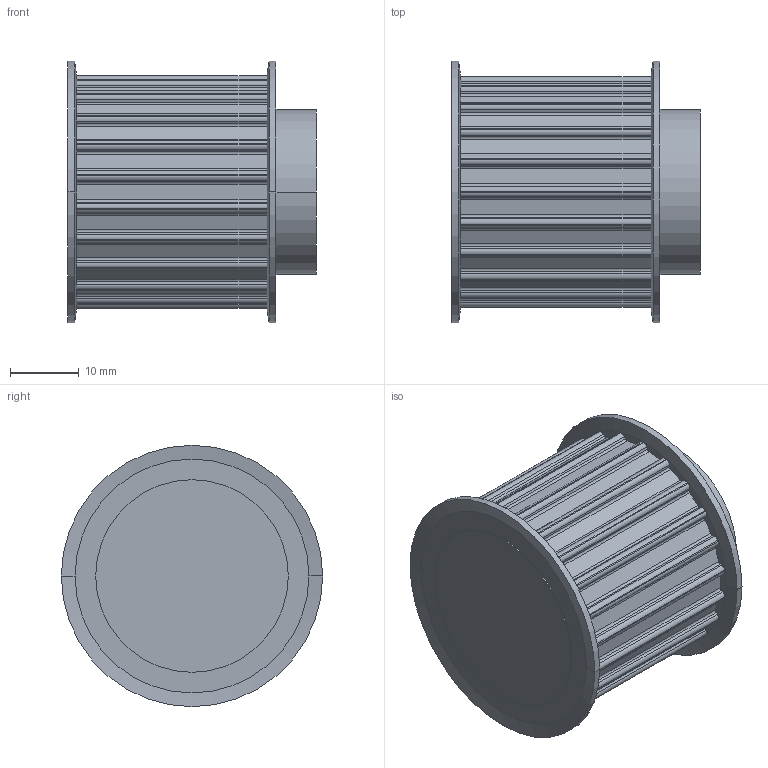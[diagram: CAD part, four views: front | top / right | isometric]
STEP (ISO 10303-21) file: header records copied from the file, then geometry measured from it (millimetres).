
FILE_DESCRIPTION( ( '' ), '1' );
FILE_NAME( 'C:/Users/Stangenbergd/Documents/CAD_Step/1/16642200.stp', '2021-10-19T09:37:57', ( '' ), ( '' ), ' ', ' ', ' ' );
FILE_SCHEMA( ( 'CONFIG_CONTROL_DESIGN' ) );
Length unit declared in the file: millimetre
Products named in the file (1): 1
Bounding box: 36.13 x 38 x 38 mm (x, y, z)
Volume: 27882.2 mm3; surface area: 7100.9 mm2
Topology: 1 solids, 1 shells, 201 faces, 574 edges, 380 vertices
Faces by surface type: cylinder 120, plane 73, cone 8
Entity records: 6696 total; most frequent: DIRECTION 1226, CARTESIAN_POINT 1156, ORIENTED_EDGE 1148, EDGE_CURVE 574, AXIS2_PLACEMENT_3D 450, VERTEX_POINT 380, LINE 326, VECTOR 326
